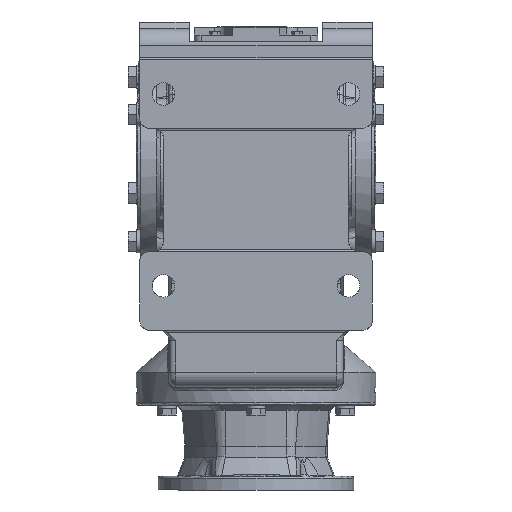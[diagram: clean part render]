
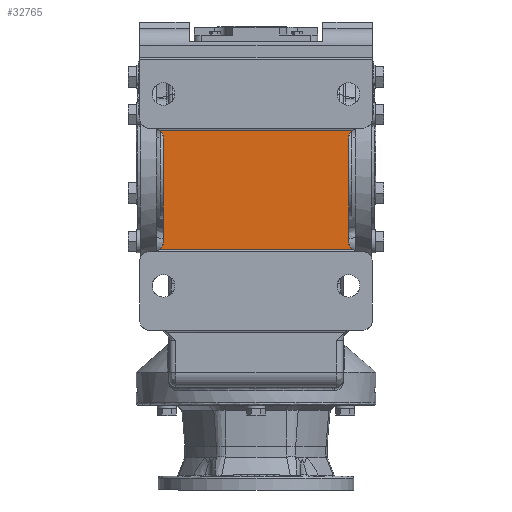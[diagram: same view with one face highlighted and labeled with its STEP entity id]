
A CAD part, front view. The second image highlights one B-rep face of the part: STEP entity #32765.
In plain terms, the highlighted planar face has unit normal (0, -1, 0).
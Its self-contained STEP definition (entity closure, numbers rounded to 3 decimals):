
#660 = ORIENTED_EDGE ( 'NONE', *, *, #84098, .F. ) ;
#661 = ORIENTED_EDGE ( 'NONE', *, *, #76807, .F. ) ;
#662 = ORIENTED_EDGE ( 'NONE', *, *, #84701, .F. ) ;
#663 = ORIENTED_EDGE ( 'NONE', *, *, #84712, .F. ) ;
#664 = ORIENTED_EDGE ( 'NONE', *, *, #84713, .T. ) ;
#665 = ORIENTED_EDGE ( 'NONE', *, *, #84714, .T. ) ;
#666 = ORIENTED_EDGE ( 'NONE', *, *, #84715, .T. ) ;
#667 = ORIENTED_EDGE ( 'NONE', *, *, #84716, .F. ) ;
#7378 = VERTEX_POINT ( 'NONE', #13748 ) ;
#7381 = VERTEX_POINT ( 'NONE', #13753 ) ;
#7464 = VERTEX_POINT ( 'NONE', #13865 ) ;
#7967 = VERTEX_POINT ( 'NONE', #13993 ) ;
#7969 = VERTEX_POINT ( 'NONE', #13997 ) ;
#7980 = VERTEX_POINT ( 'NONE', #14016 ) ;
#7981 = VERTEX_POINT ( 'NONE', #14018 ) ;
#7982 = VERTEX_POINT ( 'NONE', #14019 ) ;
#13748 = CARTESIAN_POINT ( 'NONE',  ( 141., -310., -132. ) ) ;
#13753 = CARTESIAN_POINT ( 'NONE',  ( -141., -310., -132. ) ) ;
#13865 = CARTESIAN_POINT ( 'NONE',  ( -135., -310., -120. ) ) ;
#13993 = CARTESIAN_POINT ( 'NONE',  ( 135., -310., 30. ) ) ;
#13997 = CARTESIAN_POINT ( 'NONE',  ( 135., -310., -120. ) ) ;
#14016 = CARTESIAN_POINT ( 'NONE',  ( 141., -310., 42. ) ) ;
#14018 = CARTESIAN_POINT ( 'NONE',  ( -141., -310., 42. ) ) ;
#14019 = CARTESIAN_POINT ( 'NONE',  ( -135., -310., 30. ) ) ;
#15268 = AXIS2_PLACEMENT_3D ( 'NONE', #69652, #69655, #69658 ) ;
#15559 = AXIS2_PLACEMENT_3D ( 'NONE', #21712, #21714, #21716 ) ;
#15567 = AXIS2_PLACEMENT_3D ( 'NONE', #21823, #21825, #21827 ) ;
#15570 = AXIS2_PLACEMENT_3D ( 'NONE', #21836, #21838, #21840 ) ;
#21712 = CARTESIAN_POINT ( 'NONE',  ( 150., -310., -120. ) ) ;
#21714 = DIRECTION ( 'NONE',  ( 0., -1., 0. ) ) ;
#21716 = DIRECTION ( 'NONE',  ( 0., 0., 1. ) ) ;
#21795 = CARTESIAN_POINT ( 'NONE',  ( 135., -310., 0. ) ) ;
#21798 = DIRECTION ( 'NONE',  ( 0., 0., -1. ) ) ;
#21806 = DIRECTION ( 'NONE',  ( -1., 0., 0. ) ) ;
#21817 = DIRECTION ( 'NONE',  ( 0., 0., 1. ) ) ;
#21819 = CARTESIAN_POINT ( 'NONE',  ( -135., -310., 0. ) ) ;
#21821 = CARTESIAN_POINT ( 'NONE',  ( -621.774, -310., 42. ) ) ;
#21823 = CARTESIAN_POINT ( 'NONE',  ( 150., -310., 30. ) ) ;
#21825 = DIRECTION ( 'NONE',  ( 0., 1., 0. ) ) ;
#21827 = DIRECTION ( 'NONE',  ( 0., 0., -1. ) ) ;
#21836 = CARTESIAN_POINT ( 'NONE',  ( -150., -310., 30. ) ) ;
#21838 = DIRECTION ( 'NONE',  ( 0., 1., 0. ) ) ;
#21840 = DIRECTION ( 'NONE',  ( 0., 0., -1. ) ) ;
#26013 = AXIS2_PLACEMENT_3D ( 'NONE', #35621, #35630, #35632 ) ;
#32765 = ADVANCED_FACE ( 'NONE', ( #60130 ), #35627, .F. ) ;
#35621 = CARTESIAN_POINT ( 'NONE',  ( 621.774, -310., -235. ) ) ;
#35627 = PLANE ( 'NONE',  #26013 ) ;
#35630 = DIRECTION ( 'NONE',  ( 0., 1., 0. ) ) ;
#35632 = DIRECTION ( 'NONE',  ( 0., 0., 1. ) ) ;
#60130 = FACE_OUTER_BOUND ( 'NONE', #85257, .T. ) ;
#69652 = CARTESIAN_POINT ( 'NONE',  ( -150., -310., -120. ) ) ;
#69655 = DIRECTION ( 'NONE',  ( 0., -1., 0. ) ) ;
#69658 = DIRECTION ( 'NONE',  ( 0., 0., 1. ) ) ;
#73718 = CIRCLE ( 'NONE', #15559, 15. ) ;
#73740 = LINE ( 'NONE', #21821, #73764 ) ;
#73750 = LINE ( 'NONE', #21795, #73756 ) ;
#73753 = CIRCLE ( 'NONE', #15567, 15. ) ;
#73756 = VECTOR ( 'NONE', #21798, 1000. ) ;
#73761 = CIRCLE ( 'NONE', #15570, 15. ) ;
#73764 = VECTOR ( 'NONE', #21806, 1000. ) ;
#73767 = LINE ( 'NONE', #21819, #73772 ) ;
#73772 = VECTOR ( 'NONE', #21817, 1000. ) ;
#76807 = EDGE_CURVE ( 'NONE', #7378, #7381, #82401, .T. ) ;
#82401 = LINE ( 'NONE', #88106, #82402 ) ;
#82402 = VECTOR ( 'NONE', #88117, 1000. ) ;
#84098 = EDGE_CURVE ( 'NONE', #7381, #7464, #89102, .T. ) ;
#84701 = EDGE_CURVE ( 'NONE', #7969, #7378, #73718, .T. ) ;
#84712 = EDGE_CURVE ( 'NONE', #7967, #7969, #73750, .T. ) ;
#84713 = EDGE_CURVE ( 'NONE', #7967, #7980, #73753, .T. ) ;
#84714 = EDGE_CURVE ( 'NONE', #7980, #7981, #73740, .T. ) ;
#84715 = EDGE_CURVE ( 'NONE', #7981, #7982, #73761, .T. ) ;
#84716 = EDGE_CURVE ( 'NONE', #7464, #7982, #73767, .T. ) ;
#85257 = EDGE_LOOP ( 'NONE', ( #660, #661, #662, #663, #664, #665, #666, #667 ) ) ;
#88106 = CARTESIAN_POINT ( 'NONE',  ( 621.774, -310., -132. ) ) ;
#88117 = DIRECTION ( 'NONE',  ( -1., 0., 0. ) ) ;
#89102 = CIRCLE ( 'NONE', #15268, 15. ) ;
